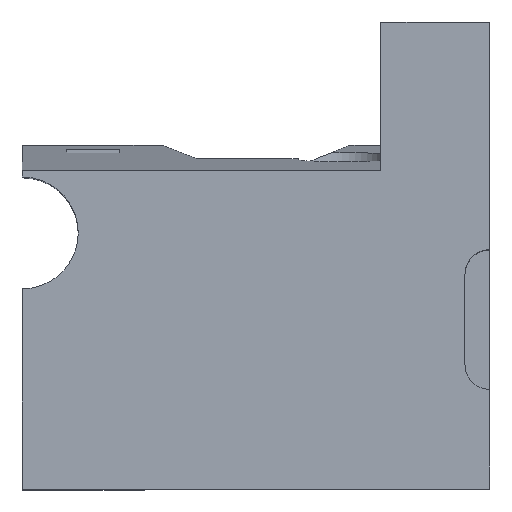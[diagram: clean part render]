
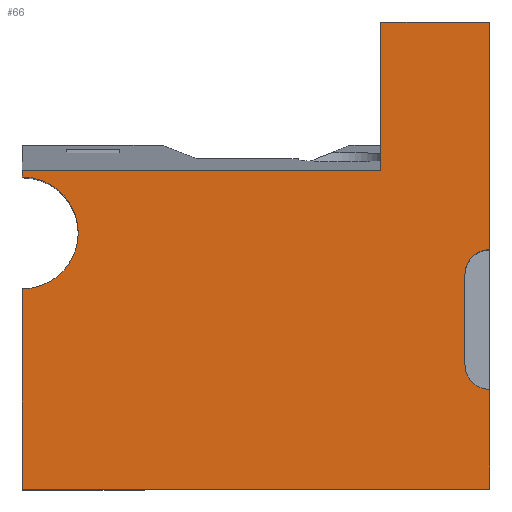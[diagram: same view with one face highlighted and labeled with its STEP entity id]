
A CAD part, top view. The second image highlights one B-rep face of the part: STEP entity #66.
In plain terms, the highlighted planar face has unit normal (0, 0, 1).
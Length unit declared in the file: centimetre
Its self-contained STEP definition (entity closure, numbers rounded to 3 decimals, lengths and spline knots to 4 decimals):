
#2 = DIRECTION ( 'NONE',  ( 1., 0., 0. ) ) ;
#8 = CARTESIAN_POINT ( 'NONE',  ( 1000., 460.0236, 1000. ) ) ;
#42 = EDGE_CURVE ( 'NONE', #99, #113, #234, .T. ) ;
#53 = ORIENTED_EDGE ( 'NONE', *, *, #157, .T. ) ;
#63 = EDGE_CURVE ( 'NONE', #783, #882, #147, .T. ) ;
#66 = ADVANCED_FACE ( 'NONE', ( #579 ), #504, .T. ) ;
#68 = CARTESIAN_POINT ( 'NONE',  ( 767.1761, 1000., 1000. ) ) ;
#99 = VERTEX_POINT ( 'NONE', #1054 ) ;
#113 = VERTEX_POINT ( 'NONE', #989 ) ;
#117 = EDGE_CURVE ( 'NONE', #1073, #938, #894, .T. ) ;
#147 = LINE ( 'NONE', #318, #1139 ) ;
#157 = EDGE_CURVE ( 'NONE', #1171, #99, #414, .T. ) ;
#173 = VECTOR ( 'NONE', #603, 100. ) ;
#187 = ORIENTED_EDGE ( 'NONE', *, *, #591, .F. ) ;
#188 = CARTESIAN_POINT ( 'NONE',  ( 947.3346, 460.0236, 1000. ) ) ;
#191 = CARTESIAN_POINT ( 'NONE',  ( 0., 668.0488, 1000. ) ) ;
#203 = ORIENTED_EDGE ( 'NONE', *, *, #499, .T. ) ;
#214 = DIRECTION ( 'NONE',  ( 0., 0., 1. ) ) ;
#231 = DIRECTION ( 'NONE',  ( -1., 0., 0. ) ) ;
#234 = LINE ( 'NONE', #494, #847 ) ;
#243 = CARTESIAN_POINT ( 'NONE',  ( 0., 0., 1000. ) ) ;
#249 = VERTEX_POINT ( 'NONE', #191 ) ;
#264 = LINE ( 'NONE', #556, #753 ) ;
#310 = EDGE_CURVE ( 'NONE', #1171, #783, #663, .T. ) ;
#318 = CARTESIAN_POINT ( 'NONE',  ( 947.3346, 266.3387, 1000. ) ) ;
#322 = CARTESIAN_POINT ( 'NONE',  ( 1000., 1000., 1000. ) ) ;
#323 = CARTESIAN_POINT ( 'NONE',  ( 1000., 1000., 1000. ) ) ;
#326 = LINE ( 'NONE', #598, #342 ) ;
#329 = LINE ( 'NONE', #68, #173 ) ;
#339 = ORIENTED_EDGE ( 'NONE', *, *, #310, .F. ) ;
#342 = VECTOR ( 'NONE', #611, 100. ) ;
#343 = AXIS2_PLACEMENT_3D ( 'NONE', #8, #553, #2 ) ;
#389 = CARTESIAN_POINT ( 'NONE',  ( 1000., 213.6732, 1000. ) ) ;
#402 = DIRECTION ( 'NONE',  ( 1., 0., 0. ) ) ;
#407 = VERTEX_POINT ( 'NONE', #1126 ) ;
#414 = LINE ( 'NONE', #322, #468 ) ;
#420 = CARTESIAN_POINT ( 'NONE',  ( 767.1761, 682.6596, 1000. ) ) ;
#426 = LINE ( 'NONE', #420, #609 ) ;
#468 = VECTOR ( 'NONE', #819, 100. ) ;
#494 = CARTESIAN_POINT ( 'NONE',  ( 0., 1000., 1000. ) ) ;
#498 = DIRECTION ( 'NONE',  ( 0., 0., 1. ) ) ;
#499 = EDGE_CURVE ( 'NONE', #249, #1202, #982, .T. ) ;
#504 = PLANE ( 'NONE',  #761 ) ;
#553 = DIRECTION ( 'NONE',  ( 0., 0., 1. ) ) ;
#556 = CARTESIAN_POINT ( 'NONE',  ( 0., 1000., 1000. ) ) ;
#579 = FACE_OUTER_BOUND ( 'NONE', #702, .T. ) ;
#589 = VERTEX_POINT ( 'NONE', #389 ) ;
#591 = EDGE_CURVE ( 'NONE', #882, #589, #864, .T. ) ;
#598 = CARTESIAN_POINT ( 'NONE',  ( 0., 1000., 1000. ) ) ;
#603 = DIRECTION ( 'NONE',  ( 0., 1., 0. ) ) ;
#609 = VECTOR ( 'NONE', #814, 100. ) ;
#611 = DIRECTION ( 'NONE',  ( 0., -1., 0. ) ) ;
#617 = EDGE_CURVE ( 'NONE', #1202, #1073, #326, .T. ) ;
#621 = CARTESIAN_POINT ( 'NONE',  ( 0., 0., 1000. ) ) ;
#663 = CIRCLE ( 'NONE', #343, 52.6655 ) ;
#669 = CARTESIAN_POINT ( 'NONE',  ( 947.3346, 266.3387, 1000. ) ) ;
#675 = CARTESIAN_POINT ( 'NONE',  ( 0., 548.5226, 1000. ) ) ;
#702 = EDGE_LOOP ( 'NONE', ( #954, #974, #203, #787, #1013, #949, #187, #1178, #339, #53, #848, #1030 ) ) ;
#703 = DIRECTION ( 'NONE',  ( 1., 0., 0. ) ) ;
#746 = CARTESIAN_POINT ( 'NONE',  ( 0., 428.9964, 1000. ) ) ;
#753 = VECTOR ( 'NONE', #940, 100. ) ;
#754 = CARTESIAN_POINT ( 'NONE',  ( 1000., 0., 1000. ) ) ;
#761 = AXIS2_PLACEMENT_3D ( 'NONE', #1049, #498, #402 ) ;
#772 = DIRECTION ( 'NONE',  ( -1., 0., 0. ) ) ;
#783 = VERTEX_POINT ( 'NONE', #188 ) ;
#785 = EDGE_CURVE ( 'NONE', #991, #249, #264, .T. ) ;
#787 = ORIENTED_EDGE ( 'NONE', *, *, #617, .T. ) ;
#810 = DIRECTION ( 'NONE',  ( 0., 1., 0. ) ) ;
#814 = DIRECTION ( 'NONE',  ( -1., 0., 0. ) ) ;
#819 = DIRECTION ( 'NONE',  ( 0., 1., 0. ) ) ;
#835 = CARTESIAN_POINT ( 'NONE',  ( 1000., 512.6891, 1000. ) ) ;
#847 = VECTOR ( 'NONE', #772, 100. ) ;
#848 = ORIENTED_EDGE ( 'NONE', *, *, #42, .T. ) ;
#858 = DIRECTION ( 'NONE',  ( -1., 0., 0. ) ) ;
#864 = CIRCLE ( 'NONE', #963, 52.6655 ) ;
#882 = VERTEX_POINT ( 'NONE', #669 ) ;
#894 = LINE ( 'NONE', #621, #965 ) ;
#914 = LINE ( 'NONE', #323, #1002 ) ;
#938 = VERTEX_POINT ( 'NONE', #754 ) ;
#940 = DIRECTION ( 'NONE',  ( 0., -1., 0. ) ) ;
#949 = ORIENTED_EDGE ( 'NONE', *, *, #979, .T. ) ;
#954 = ORIENTED_EDGE ( 'NONE', *, *, #1015, .T. ) ;
#963 = AXIS2_PLACEMENT_3D ( 'NONE', #1147, #214, #858 ) ;
#965 = VECTOR ( 'NONE', #703, 100. ) ;
#974 = ORIENTED_EDGE ( 'NONE', *, *, #785, .T. ) ;
#979 = EDGE_CURVE ( 'NONE', #938, #589, #914, .T. ) ;
#982 = CIRCLE ( 'NONE', #1197, 119.5262 ) ;
#989 = CARTESIAN_POINT ( 'NONE',  ( 767.1761, 1000., 1000. ) ) ;
#991 = VERTEX_POINT ( 'NONE', #1187 ) ;
#1002 = VECTOR ( 'NONE', #810, 100. ) ;
#1013 = ORIENTED_EDGE ( 'NONE', *, *, #117, .T. ) ;
#1015 = EDGE_CURVE ( 'NONE', #407, #991, #426, .T. ) ;
#1030 = ORIENTED_EDGE ( 'NONE', *, *, #1061, .F. ) ;
#1049 = CARTESIAN_POINT ( 'NONE',  ( 0., 0., 1000. ) ) ;
#1054 = CARTESIAN_POINT ( 'NONE',  ( 1000., 1000., 1000. ) ) ;
#1061 = EDGE_CURVE ( 'NONE', #407, #113, #329, .T. ) ;
#1073 = VERTEX_POINT ( 'NONE', #243 ) ;
#1126 = CARTESIAN_POINT ( 'NONE',  ( 767.1761, 682.6596, 1000. ) ) ;
#1139 = VECTOR ( 'NONE', #1144, 100. ) ;
#1141 = DIRECTION ( 'NONE',  ( 0., 0., -1. ) ) ;
#1144 = DIRECTION ( 'NONE',  ( 0., -1., 0. ) ) ;
#1147 = CARTESIAN_POINT ( 'NONE',  ( 1000., 266.3387, 1000. ) ) ;
#1171 = VERTEX_POINT ( 'NONE', #835 ) ;
#1178 = ORIENTED_EDGE ( 'NONE', *, *, #63, .F. ) ;
#1187 = CARTESIAN_POINT ( 'NONE',  ( 0., 682.6596, 1000. ) ) ;
#1197 = AXIS2_PLACEMENT_3D ( 'NONE', #675, #1141, #231 ) ;
#1202 = VERTEX_POINT ( 'NONE', #746 ) ;
